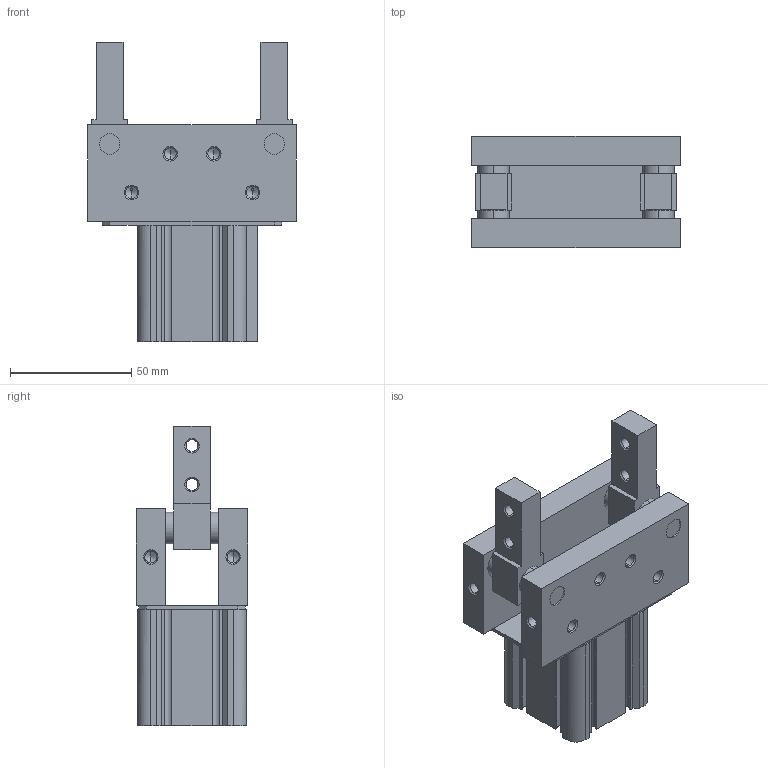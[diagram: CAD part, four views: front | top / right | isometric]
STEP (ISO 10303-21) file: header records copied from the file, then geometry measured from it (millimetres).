
FILE_DESCRIPTION (( 'STEP AP203' ), '1' );
FILE_NAME ('CHT2-32D.STEP', '2020-03-03T19:28:41', ( '' ), ( '' ), 'SwSTEP 2.0', 'SolidWorks 2019', '' );
FILE_SCHEMA (( 'CONFIG_CONTROL_DESIGN' ));
Length unit declared in the file: millimetre
Products named in the file (1): CHT2-32D
Bounding box: 86 x 46 x 123.6 mm (x, y, z)
Volume: 187999.7 mm3; surface area: 47758.2 mm2
Topology: 3 solids, 3 shells, 272 faces, 686 edges, 406 vertices
Faces by surface type: plane 102, cone 88, cylinder 82
Entity records: 7923 total; most frequent: DIRECTION 1416, CARTESIAN_POINT 1329, ORIENTED_EDGE 1300, EDGE_CURVE 650, AXIS2_PLACEMENT_3D 493, VECTOR 430, LINE 430, VERTEX_POINT 406
